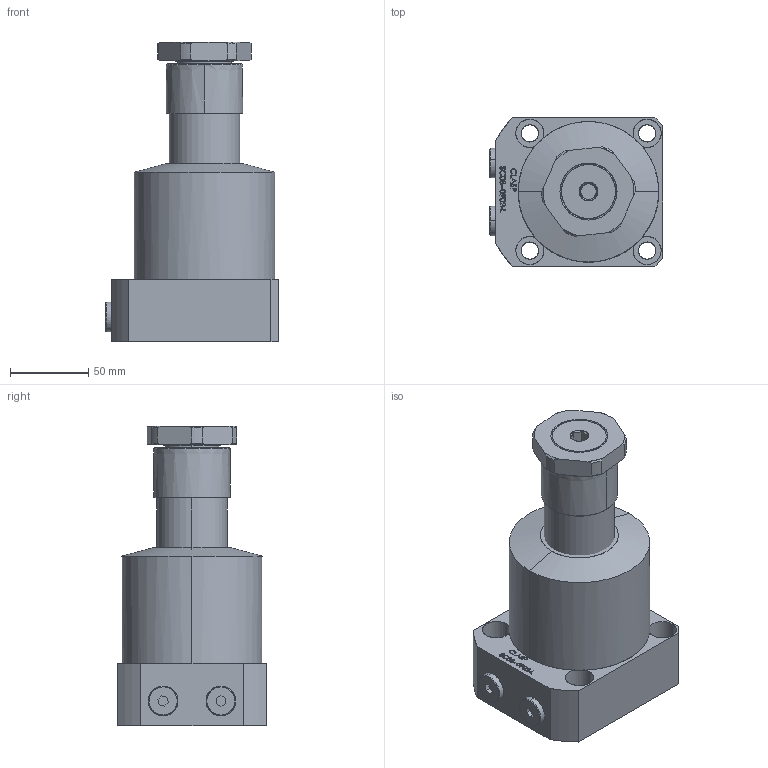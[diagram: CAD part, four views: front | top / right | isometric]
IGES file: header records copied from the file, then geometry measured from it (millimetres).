
Start section: SolidWorks IGES file using analytic representation for surfaces
Global section: file name: D:\karuppas\Clasp\3D model\SWING CYLINDER\bottom mounting swing cylinder\SC08-0902-L\SC08-0902-L.IGS; native system: SolidWorks 2017; preprocessor: SolidWorks 2017; author: pc; date: 220708.225243; units: millimetre
Bounding box: 111 x 95 x 192 mm (x, y, z)
Surface area: 98299.6 mm2 (no closed solid volume)
Topology: 0 solids, 0 shells, 378 faces, 6279 edges, 6278 vertices
Faces by surface type: bspline 271, revolution 107
